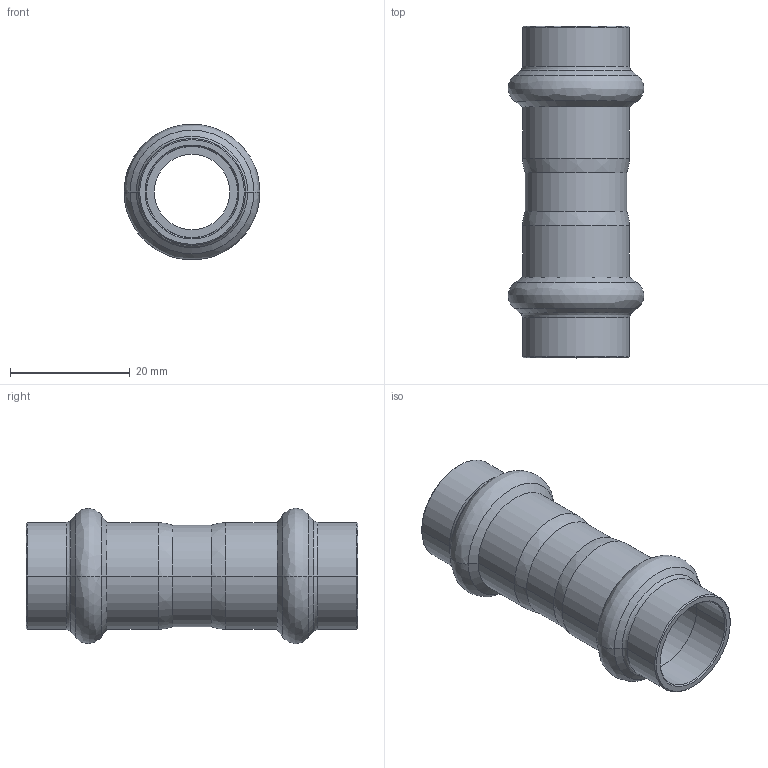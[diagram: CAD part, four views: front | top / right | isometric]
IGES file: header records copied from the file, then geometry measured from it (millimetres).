
Start section: Elysium IGES Interface
Global section: file name: C:\3d modellen sudo\C-Pr VP\SP8270V\8270VW15.igs; native system: CoCreate Modeling 17.00A  17-Jun-2010; preprocessor: CoCreate IGES_3D V2.2; author: Unknown; organization: Unknown; date: 20130129.115614; units: millimetre
Bounding box: 22.68 x 55.51 x 22.67 mm (x, y, z)
Volume: 5139.2 mm3; surface area: 6437.7 mm2
Topology: 1 solids, 1 shells, 74 faces, 148 edges, 80 vertices
Faces by surface type: bspline 74
